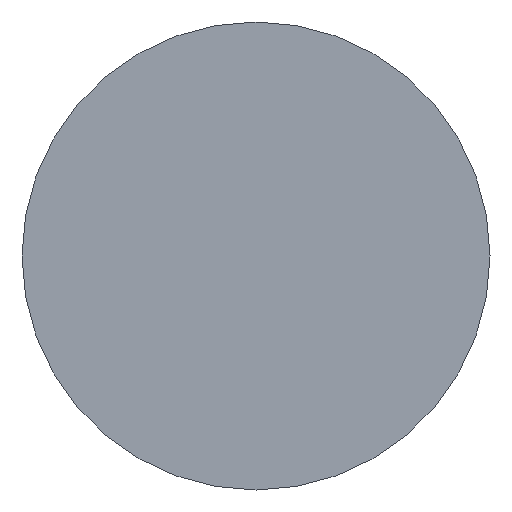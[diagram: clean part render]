
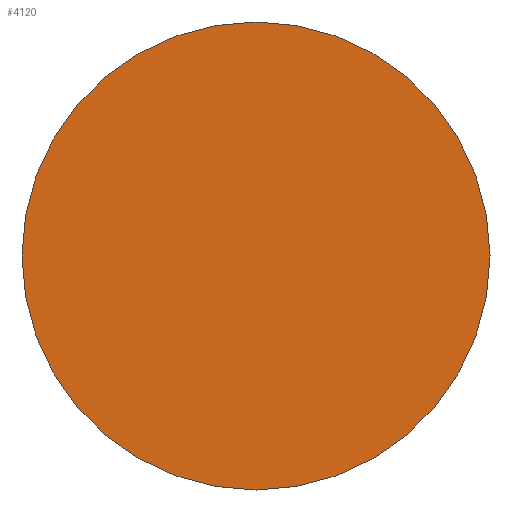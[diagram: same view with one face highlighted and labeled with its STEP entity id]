
A CAD part, left-side view. The second image highlights one B-rep face of the part: STEP entity #4120.
In plain terms, the highlighted planar face has unit normal (-1, 0, 0).
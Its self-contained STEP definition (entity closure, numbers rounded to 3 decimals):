
#3042=CARTESIAN_POINT('',(-55.3,0.,0.));
#3043=DIRECTION('',(1.,0.,0.));
#3044=DIRECTION('',(0.,0.,1.));
#3045=AXIS2_PLACEMENT_3D('',#3042,#3043,#3044);
#3050=CARTESIAN_POINT('',(-55.3,0.,0.));
#3051=DIRECTION('',(1.,0.,0.));
#3052=DIRECTION('',(0.,0.,-1.));
#3053=AXIS2_PLACEMENT_3D('',#3050,#3051,#3052);
#3225=CARTESIAN_POINT('',(-55.3,0.,-5.));
#3226=VERTEX_POINT('',#3225);
#3227=CARTESIAN_POINT('',(-55.3,0.,5.));
#3228=VERTEX_POINT('',#3227);
#4111=CARTESIAN_POINT('',(-55.3,0.,0.));
#4112=DIRECTION('',(-1.,0.,0.));
#4113=DIRECTION('',(0.,0.,-1.));
#4114=AXIS2_PLACEMENT_3D('',#4111,#4112,#4113);
#4115=PLANE('',#4114);
#4116=ORIENTED_EDGE('',*,*,#4091,.T.);
#4117=ORIENTED_EDGE('',*,*,#4105,.T.);
#4118=EDGE_LOOP('',(#4116,#4117));
#4119=FACE_OUTER_BOUND('',#4118,.F.);
#3046=CIRCLE('',#3045,5.);
#3054=CIRCLE('',#3053,5.);
#4091=EDGE_CURVE('',#3228,#3226,#3046,.T.);
#4105=EDGE_CURVE('',#3226,#3228,#3054,.T.);
#4120=ADVANCED_FACE('',(#4119),#4115,.T.);
